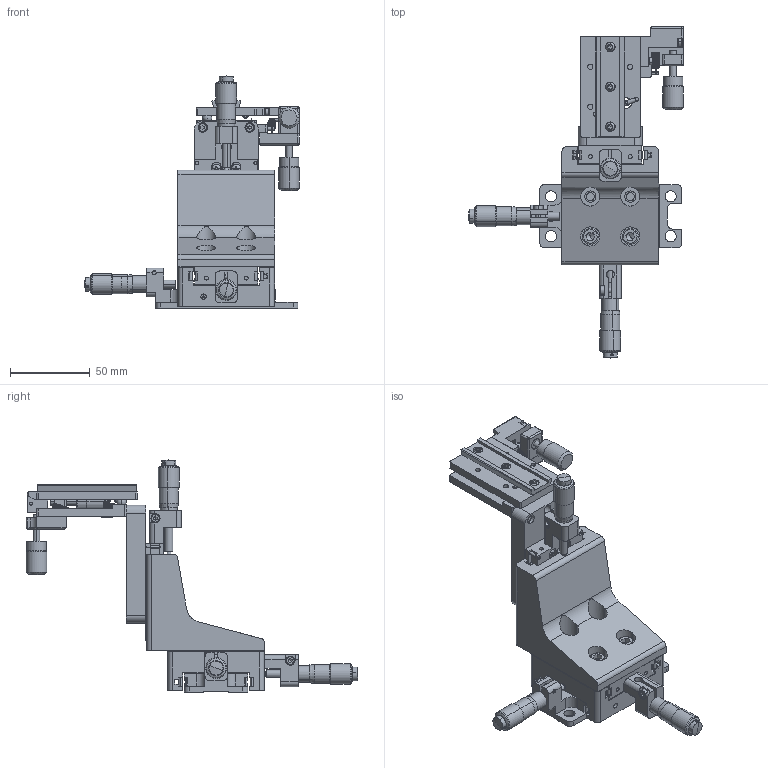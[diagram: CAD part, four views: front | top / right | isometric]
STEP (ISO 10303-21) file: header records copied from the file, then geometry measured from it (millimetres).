
FILE_DESCRIPTION (( 'STEP AP203' ), '1' );
FILE_NAME ('7SAM503R五维光纤调整架（右手型）.STEP', '2022-04-01T07:48:00', ( '' ), ( '' ), 'SwSTEP 2.0', 'SolidWorks 2018', '' );
FILE_SCHEMA (( 'CONFIG_CONTROL_DESIGN' ));
Products named in the file (1): 7SAM503R五维光纤调整架（右手型）
Bounding box: 134.55 x 207.71 x 145.3 mm (x, y, z)
Surface area: 119326.7 mm2 (no closed solid volume)
Topology: 0 solids, 188 shells, 1236 faces, 3962 edges, 2747 vertices
Faces by surface type: plane 522, cylinder 468, cone 132, torus 73, sphere 30, bspline 11
Entity records: 65990 total; most frequent: CARTESIAN_POINT 30090, DIRECTION 8125, ORIENTED_EDGE 6383, EDGE_CURVE 3922, AXIS2_PLACEMENT_3D 3077, VERTEX_POINT 2741, VECTOR 1971, LINE 1971
